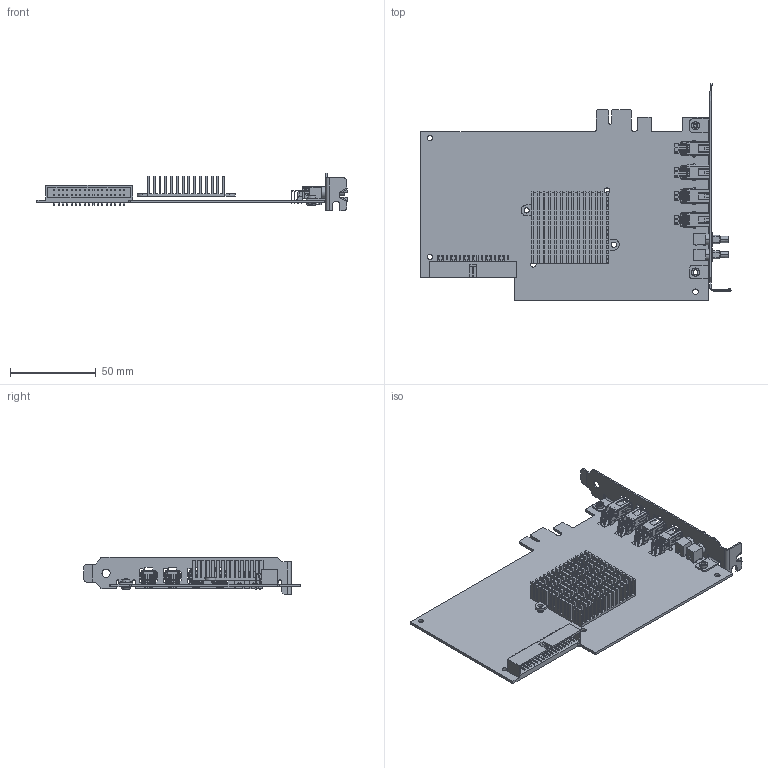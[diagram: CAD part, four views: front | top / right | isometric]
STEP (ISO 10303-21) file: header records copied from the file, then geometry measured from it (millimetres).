
FILE_DESCRIPTION((''),'2;1');
FILE_NAME('CU_PCIE-8510-4CH','2017-08-15T',('huydo'),(''),'CREO PARAMETRIC BY PTC INC, 2015380','CREO PARAMETRIC BY PTC INC, 2015380','');
FILE_SCHEMA(('CONFIG_CONTROL_DESIGN'));
Products named in the file (1): CU_PCIE-8510-4CH
Bounding box: 180.92 x 126.32 x 21.59 mm (x, y, z)
Volume: 39523.5 mm3; surface area: 64156.6 mm2
Topology: 2 solids, 2 shells, 4466 faces, 12848 edges, 8454 vertices
Faces by surface type: plane 3288, cylinder 1127, cone 24, bspline 16, torus 8, extrusion 3
Entity records: 151102 total; most frequent: CARTESIAN_POINT 32513, ORIENTED_EDGE 25680, DIRECTION 23116, EDGE_CURVE 12840, VECTOR 10096, LINE 10093, VERTEX_POINT 8454, AXIS2_PLACEMENT_3D 6510
